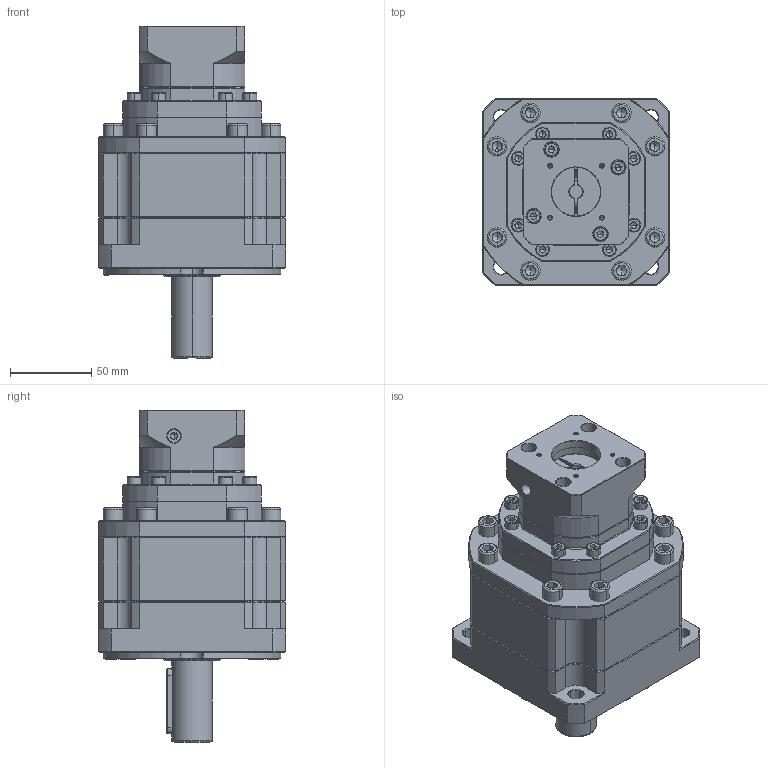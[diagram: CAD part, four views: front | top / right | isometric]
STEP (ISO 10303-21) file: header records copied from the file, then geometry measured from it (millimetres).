
FILE_DESCRIPTION (( 'STEP AP214' ), '1' );
FILE_NAME ('ZB115A-D25-L3-8-30-45-M3.step', '2023-03-03T09:54:01', ( '' ), ( 'Microsoft' ), 'SwSTEP 2.0', 'SolidWorks 2016', '' );
FILE_SCHEMA (( 'AUTOMOTIVE_DESIGN' ));
Length unit declared in the file: millimetre
Products named in the file (1): ZB115A-D25-L3-8-30-45-M3
Bounding box: 115 x 115 x 204 mm (x, y, z)
Volume: 1301992.8 mm3; surface area: 121848.7 mm2
Topology: 7 solids, 7 shells, 2279 faces, 5912 edges, 3742 vertices
Faces by surface type: plane 1126, cylinder 442, bspline 345, cone 344, torus 22
Entity records: 114687 total; most frequent: CARTESIAN_POINT 36719, ORIENTED_EDGE 11700, DIRECTION 9804, EDGE_CURVE 5850, VERTEX_POINT 3742, VECTOR 3666, LINE 3666, AXIS2_PLACEMENT_3D 3069
